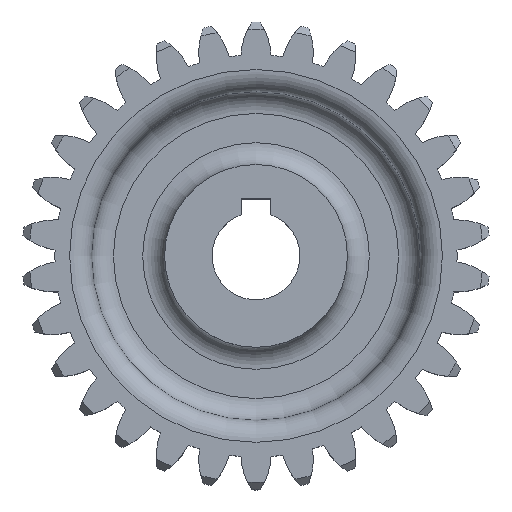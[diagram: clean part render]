
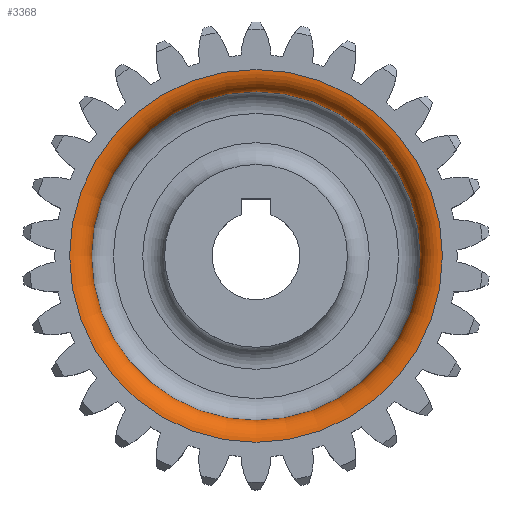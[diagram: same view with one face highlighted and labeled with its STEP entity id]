
A CAD part, top view. The second image highlights one B-rep face of the part: STEP entity #3368.
In plain terms, the highlighted toroidal (fillet/blend) face has major radius 25.5 mm and minor radius 3 mm.
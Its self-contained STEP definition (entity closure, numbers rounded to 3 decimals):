
#138=FACE_BOUND('',#740,.T.);
#144=TOROIDAL_SURFACE('',#3570,25.5,3.);
#543=FACE_OUTER_BOUND('',#739,.T.);
#739=EDGE_LOOP('',(#2205));
#740=EDGE_LOOP('',(#2206));
#936=CIRCLE('',#3571,22.5);
#937=CIRCLE('',#3572,25.5);
#1254=VERTEX_POINT('',#5240);
#1255=VERTEX_POINT('',#5242);
#1635=EDGE_CURVE('',#1254,#1254,#936,.T.);
#1636=EDGE_CURVE('',#1255,#1255,#937,.T.);
#2205=ORIENTED_EDGE('',*,*,#1635,.F.);
#2206=ORIENTED_EDGE('',*,*,#1636,.T.);
#3368=ADVANCED_FACE('',(#543,#138),#144,.T.);
#3570=AXIS2_PLACEMENT_3D('',#5239,#4099,#4100);
#3571=AXIS2_PLACEMENT_3D('',#5241,#4101,#4102);
#3572=AXIS2_PLACEMENT_3D('',#5243,#4103,#4104);
#4099=DIRECTION('center_axis',(0.,0.,-1.));
#4100=DIRECTION('ref_axis',(-1.,0.,0.));
#4101=DIRECTION('center_axis',(0.,0.,1.));
#4102=DIRECTION('ref_axis',(0.,-1.,0.));
#4103=DIRECTION('center_axis',(0.,0.,1.));
#4104=DIRECTION('ref_axis',(0.,-1.,0.));
#5239=CARTESIAN_POINT('Origin',(0.,0.,10.));
#5240=CARTESIAN_POINT('',(0.,22.5,10.));
#5241=CARTESIAN_POINT('Origin',(0.,0.,10.));
#5242=CARTESIAN_POINT('',(0.,25.5,13.));
#5243=CARTESIAN_POINT('Origin',(0.,0.,13.));
